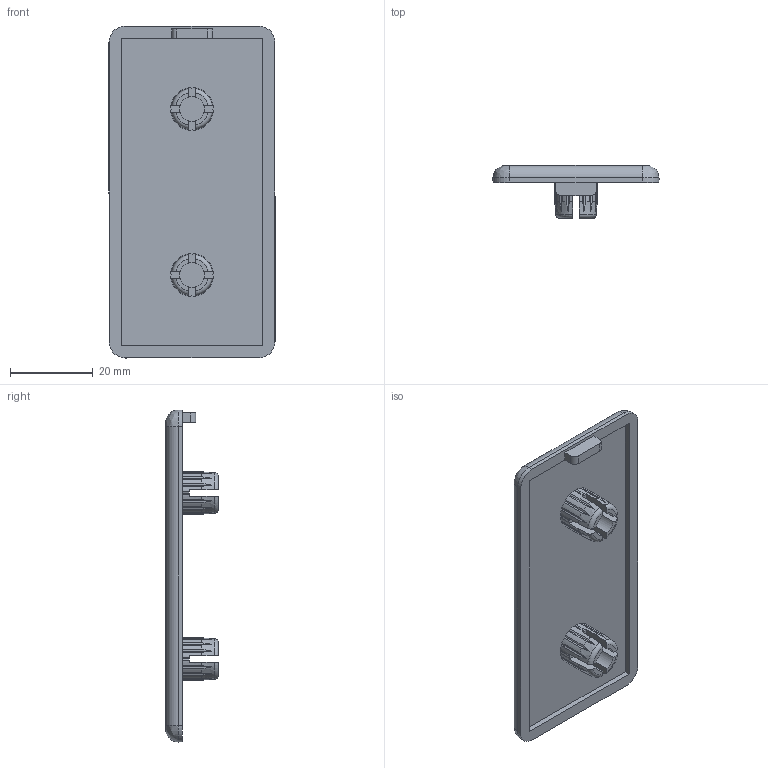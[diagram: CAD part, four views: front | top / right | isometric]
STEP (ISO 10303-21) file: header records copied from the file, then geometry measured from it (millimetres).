
FILE_DESCRIPTION(/* description */ ('STEP AP203'),/* implementation_level */ '2;1');
FILE_NAME(/* name */ 'Plastic End Cap - 40 Series - 40x80.step',/* time_stamp */ '2025-05-14T19:17:59+03:00',/* author */ (''),/* organization */ (''),/* preprocessor_version */ 'ST-DEVELOPER v20.1',/* originating_system */ 'Autodesk Translation Framework v14.4.0.0',/* authorisation */ '');
FILE_SCHEMA (('AUTOMOTIVE_DESIGN { 1 0 10303 214 3 1 1 }'));
Length unit declared in the file: millimetre
Products named in the file (1): 375.0400A
Bounding box: 40 x 12.7 x 80 mm (x, y, z)
Volume: 9977.7 mm3; surface area: 8418.6 mm2
Topology: 1 solids, 1 shells, 177 faces, 508 edges, 336 vertices
Faces by surface type: plane 113, cylinder 44, cone 8, torus 8, bspline 4
Full cylindrical faces by diameter (mm): 6 x2
Entity records: 6323 total; most frequent: CARTESIAN_POINT 1702, ORIENTED_EDGE 1016, DIRECTION 910, EDGE_CURVE 508, VERTEX_POINT 336, AXIS2_PLACEMENT_3D 311, LINE 288, VECTOR 288
